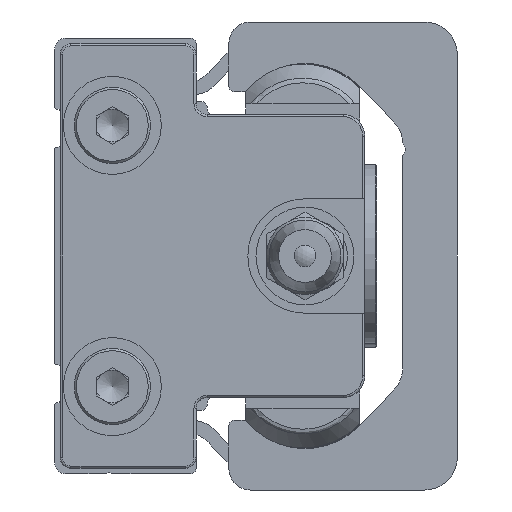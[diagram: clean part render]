
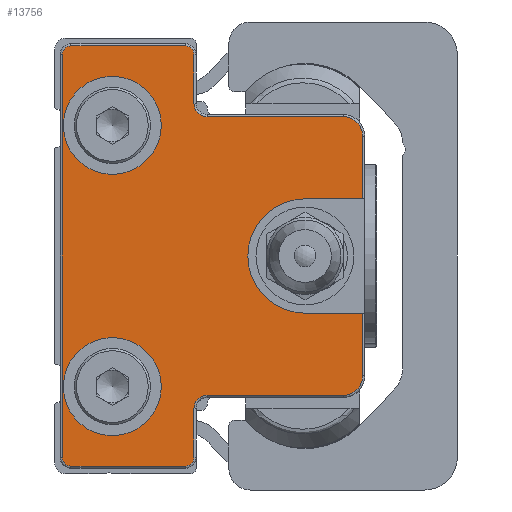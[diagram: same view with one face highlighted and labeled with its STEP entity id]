
A CAD part, left-side view. The second image highlights one B-rep face of the part: STEP entity #13756.
In plain terms, the highlighted planar face has unit normal (-1, 0, 0) as drawn and (0, 0, 1) by its records, which use the part's own axes.
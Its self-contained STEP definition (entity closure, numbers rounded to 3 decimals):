
#721=PLANE('',#15238);
#1685=LINE('',#23580,#2714);
#1686=LINE('',#23583,#2715);
#1687=LINE('',#23587,#2716);
#1688=LINE('',#23591,#2717);
#1689=LINE('',#23595,#2718);
#1690=LINE('',#23599,#2719);
#1691=LINE('',#23603,#2720);
#1692=LINE('',#23607,#2721);
#1693=LINE('',#23611,#2722);
#1694=LINE('',#23615,#2723);
#1695=LINE('',#23617,#2724);
#2714=VECTOR('',#18981,1000.);
#2715=VECTOR('',#18982,1000.);
#2716=VECTOR('',#18985,1000.);
#2717=VECTOR('',#18988,1000.);
#2718=VECTOR('',#18991,1000.);
#2719=VECTOR('',#18994,1000.);
#2720=VECTOR('',#18997,1000.);
#2721=VECTOR('',#19000,1000.);
#2722=VECTOR('',#19003,1000.);
#2723=VECTOR('',#19006,1000.);
#2724=VECTOR('',#19007,1000.);
#6048=ORIENTED_EDGE('',*,*,#8301,.F.);
#6049=ORIENTED_EDGE('',*,*,#8302,.F.);
#6050=ORIENTED_EDGE('',*,*,#8303,.F.);
#6051=ORIENTED_EDGE('',*,*,#8304,.T.);
#6052=ORIENTED_EDGE('',*,*,#8305,.T.);
#6053=ORIENTED_EDGE('',*,*,#8306,.T.);
#6054=ORIENTED_EDGE('',*,*,#8307,.T.);
#6055=ORIENTED_EDGE('',*,*,#8308,.T.);
#6056=ORIENTED_EDGE('',*,*,#8309,.T.);
#6057=ORIENTED_EDGE('',*,*,#8310,.T.);
#6058=ORIENTED_EDGE('',*,*,#8311,.T.);
#6059=ORIENTED_EDGE('',*,*,#8312,.T.);
#6060=ORIENTED_EDGE('',*,*,#8313,.T.);
#6061=ORIENTED_EDGE('',*,*,#8314,.T.);
#6062=ORIENTED_EDGE('',*,*,#8315,.T.);
#6063=ORIENTED_EDGE('',*,*,#8316,.T.);
#6064=ORIENTED_EDGE('',*,*,#8317,.T.);
#6065=ORIENTED_EDGE('',*,*,#8318,.T.);
#6066=ORIENTED_EDGE('',*,*,#8319,.T.);
#6067=ORIENTED_EDGE('',*,*,#8320,.T.);
#6068=ORIENTED_EDGE('',*,*,#8321,.F.);
#6069=ORIENTED_EDGE('',*,*,#8322,.F.);
#8301=EDGE_CURVE('',#9722,#9722,#10497,.T.);
#8302=EDGE_CURVE('',#9723,#9723,#10498,.T.);
#8303=EDGE_CURVE('',#9724,#9725,#1685,.T.);
#8304=EDGE_CURVE('',#9724,#9726,#1686,.T.);
#8305=EDGE_CURVE('',#9726,#9727,#10499,.T.);
#8306=EDGE_CURVE('',#9727,#9728,#1687,.T.);
#8307=EDGE_CURVE('',#9728,#9729,#10500,.F.);
#8308=EDGE_CURVE('',#9729,#9730,#1688,.T.);
#8309=EDGE_CURVE('',#9730,#9731,#10501,.T.);
#8310=EDGE_CURVE('',#9731,#9732,#1689,.T.);
#8311=EDGE_CURVE('',#9732,#9733,#10502,.T.);
#8312=EDGE_CURVE('',#9733,#9734,#1690,.T.);
#8313=EDGE_CURVE('',#9734,#9735,#10503,.T.);
#8314=EDGE_CURVE('',#9735,#9736,#1691,.T.);
#8315=EDGE_CURVE('',#9736,#9737,#10504,.T.);
#8316=EDGE_CURVE('',#9737,#9738,#1692,.T.);
#8317=EDGE_CURVE('',#9738,#9739,#10505,.F.);
#8318=EDGE_CURVE('',#9739,#9740,#1693,.T.);
#8319=EDGE_CURVE('',#9740,#9741,#10506,.T.);
#8320=EDGE_CURVE('',#9741,#9742,#1694,.T.);
#8321=EDGE_CURVE('',#9743,#9742,#1695,.T.);
#8322=EDGE_CURVE('',#9725,#9743,#10507,.T.);
#9722=VERTEX_POINT('',#23577);
#9723=VERTEX_POINT('',#23579);
#9724=VERTEX_POINT('',#23581);
#9725=VERTEX_POINT('',#23582);
#9726=VERTEX_POINT('',#23584);
#9727=VERTEX_POINT('',#23586);
#9728=VERTEX_POINT('',#23588);
#9729=VERTEX_POINT('',#23590);
#9730=VERTEX_POINT('',#23592);
#9731=VERTEX_POINT('',#23594);
#9732=VERTEX_POINT('',#23596);
#9733=VERTEX_POINT('',#23598);
#9734=VERTEX_POINT('',#23600);
#9735=VERTEX_POINT('',#23602);
#9736=VERTEX_POINT('',#23604);
#9737=VERTEX_POINT('',#23606);
#9738=VERTEX_POINT('',#23608);
#9739=VERTEX_POINT('',#23610);
#9740=VERTEX_POINT('',#23612);
#9741=VERTEX_POINT('',#23614);
#9742=VERTEX_POINT('',#23616);
#9743=VERTEX_POINT('',#23618);
#10497=CIRCLE('',#15239,4.5);
#10498=CIRCLE('',#15240,4.5);
#10499=CIRCLE('',#15241,1.8);
#10500=CIRCLE('',#15242,1.2);
#10501=CIRCLE('',#15243,0.8);
#10502=CIRCLE('',#15244,0.8);
#10503=CIRCLE('',#15245,0.8);
#10504=CIRCLE('',#15246,0.8);
#10505=CIRCLE('',#15247,1.2);
#10506=CIRCLE('',#15248,1.8);
#10507=CIRCLE('',#15249,5.25);
#11518=EDGE_LOOP('',(#6048));
#11519=EDGE_LOOP('',(#6049));
#11520=EDGE_LOOP('',(#6050,#6051,#6052,#6053,#6054,#6055,#6056,#6057,#6058,
#6059,#6060,#6061,#6062,#6063,#6064,#6065,#6066,#6067,#6068,#6069));
#12605=FACE_BOUND('',#11518,.T.);
#12606=FACE_BOUND('',#11519,.T.);
#12607=FACE_BOUND('',#11520,.T.);
#13756=ADVANCED_FACE('',(#12605,#12606,#12607),#721,.T.);
#15238=AXIS2_PLACEMENT_3D('',#23575,#18975,#18976);
#15239=AXIS2_PLACEMENT_3D('',#23576,#18977,#18978);
#15240=AXIS2_PLACEMENT_3D('',#23578,#18979,#18980);
#15241=AXIS2_PLACEMENT_3D('',#23585,#18983,#18984);
#15242=AXIS2_PLACEMENT_3D('',#23589,#18986,#18987);
#15243=AXIS2_PLACEMENT_3D('',#23593,#18989,#18990);
#15244=AXIS2_PLACEMENT_3D('',#23597,#18992,#18993);
#15245=AXIS2_PLACEMENT_3D('',#23601,#18995,#18996);
#15246=AXIS2_PLACEMENT_3D('',#23605,#18998,#18999);
#15247=AXIS2_PLACEMENT_3D('',#23609,#19001,#19002);
#15248=AXIS2_PLACEMENT_3D('',#23613,#19004,#19005);
#15249=AXIS2_PLACEMENT_3D('',#23619,#19008,#19009);
#18975=DIRECTION('',(0.,0.,1.));
#18976=DIRECTION('',(1.,0.,0.));
#18977=DIRECTION('',(0.,0.,1.));
#18978=DIRECTION('',(1.,0.,0.));
#18979=DIRECTION('',(0.,0.,1.));
#18980=DIRECTION('',(1.,0.,0.));
#18981=DIRECTION('',(0.,1.,0.));
#18982=DIRECTION('',(1.,0.,0.));
#18983=DIRECTION('',(0.,0.,1.));
#18984=DIRECTION('',(1.,0.,0.));
#18985=DIRECTION('',(0.,1.,0.));
#18986=DIRECTION('',(0.,0.,1.));
#18987=DIRECTION('',(1.,0.,0.));
#18988=DIRECTION('',(1.,0.,0.));
#18989=DIRECTION('',(0.,0.,1.));
#18990=DIRECTION('',(1.,0.,0.));
#18991=DIRECTION('',(0.,1.,0.));
#18992=DIRECTION('',(0.,0.,1.));
#18993=DIRECTION('',(1.,0.,0.));
#18994=DIRECTION('',(-1.,0.,0.));
#18995=DIRECTION('',(0.,0.,1.));
#18996=DIRECTION('',(1.,0.,0.));
#18997=DIRECTION('',(0.,-1.,0.));
#18998=DIRECTION('',(0.,0.,1.));
#18999=DIRECTION('',(1.,0.,0.));
#19000=DIRECTION('',(1.,0.,0.));
#19001=DIRECTION('',(0.,0.,1.));
#19002=DIRECTION('',(1.,0.,0.));
#19003=DIRECTION('',(0.,-1.,0.));
#19004=DIRECTION('',(0.,0.,1.));
#19005=DIRECTION('',(1.,0.,0.));
#19006=DIRECTION('',(1.,0.,0.));
#19007=DIRECTION('',(0.,-1.,0.));
#19008=DIRECTION('',(0.,0.,1.));
#19009=DIRECTION('',(1.,0.,0.));
#23575=CARTESIAN_POINT('',(-18.5,-11.5,5.4));
#23576=CARTESIAN_POINT('',(-12.,-4.8,5.4));
#23577=CARTESIAN_POINT('',(-7.5,-4.8,5.4));
#23578=CARTESIAN_POINT('',(12.,-4.8,5.4));
#23579=CARTESIAN_POINT('',(16.5,-4.8,5.4));
#23580=CARTESIAN_POINT('',(5.25,-28.5,5.4));
#23581=CARTESIAN_POINT('',(5.25,-27.8,5.4));
#23582=CARTESIAN_POINT('',(5.25,-22.5,5.4));
#23583=CARTESIAN_POINT('',(11.,-27.8,5.4));
#23584=CARTESIAN_POINT('',(11.,-27.8,5.4));
#23585=CARTESIAN_POINT('',(11.,-26.,5.4));
#23586=CARTESIAN_POINT('',(12.8,-26.,5.4));
#23587=CARTESIAN_POINT('',(12.8,-13.5,5.4));
#23588=CARTESIAN_POINT('',(12.8,-13.5,5.4));
#23589=CARTESIAN_POINT('',(14.,-13.5,5.4));
#23590=CARTESIAN_POINT('',(14.,-12.3,5.4));
#23591=CARTESIAN_POINT('',(18.5,-12.3,5.4));
#23592=CARTESIAN_POINT('',(18.5,-12.3,5.4));
#23593=CARTESIAN_POINT('',(18.5,-11.5,5.4));
#23594=CARTESIAN_POINT('',(19.3,-11.5,5.4));
#23595=CARTESIAN_POINT('',(19.3,-1.,5.4));
#23596=CARTESIAN_POINT('',(19.3,-1.,5.4));
#23597=CARTESIAN_POINT('',(18.5,-1.,5.4));
#23598=CARTESIAN_POINT('',(18.5,-0.2,5.4));
#23599=CARTESIAN_POINT('',(-18.5,-0.2,5.4));
#23600=CARTESIAN_POINT('',(-18.5,-0.2,5.4));
#23601=CARTESIAN_POINT('',(-18.5,-1.,5.4));
#23602=CARTESIAN_POINT('',(-19.3,-1.,5.4));
#23603=CARTESIAN_POINT('',(-19.3,-11.5,5.4));
#23604=CARTESIAN_POINT('',(-19.3,-11.5,5.4));
#23605=CARTESIAN_POINT('',(-18.5,-11.5,5.4));
#23606=CARTESIAN_POINT('',(-18.5,-12.3,5.4));
#23607=CARTESIAN_POINT('',(-14.,-12.3,5.4));
#23608=CARTESIAN_POINT('',(-14.,-12.3,5.4));
#23609=CARTESIAN_POINT('',(-14.,-13.5,5.4));
#23610=CARTESIAN_POINT('',(-12.8,-13.5,5.4));
#23611=CARTESIAN_POINT('',(-12.8,-26.,5.4));
#23612=CARTESIAN_POINT('',(-12.8,-26.,5.4));
#23613=CARTESIAN_POINT('',(-11.,-26.,5.4));
#23614=CARTESIAN_POINT('',(-11.,-27.8,5.4));
#23615=CARTESIAN_POINT('',(-5.25,-27.8,5.4));
#23616=CARTESIAN_POINT('',(-5.25,-27.8,5.4));
#23617=CARTESIAN_POINT('',(-5.25,-22.5,5.4));
#23618=CARTESIAN_POINT('',(-5.25,-22.5,5.4));
#23619=CARTESIAN_POINT('',(0.,-22.5,5.4));
